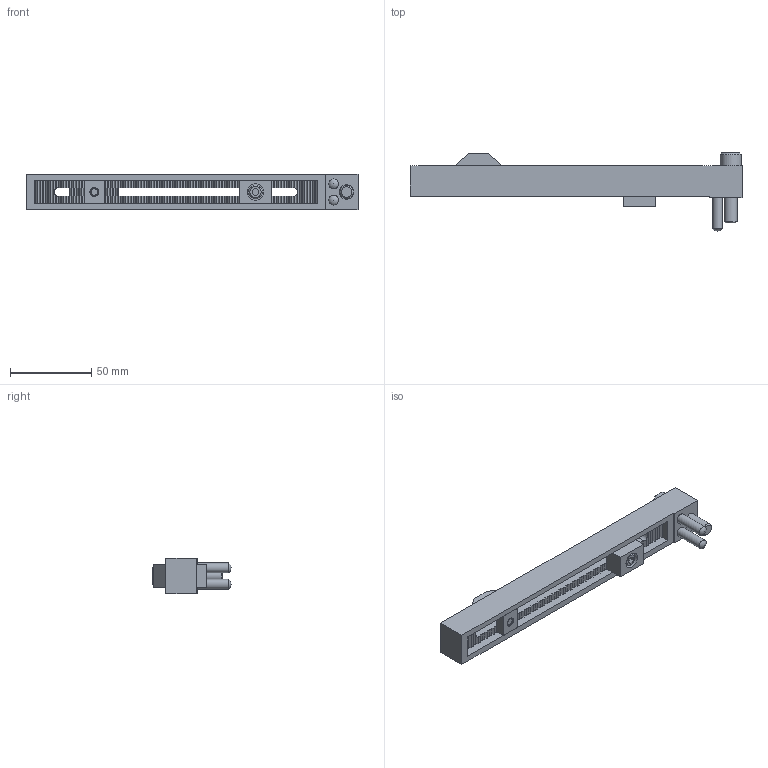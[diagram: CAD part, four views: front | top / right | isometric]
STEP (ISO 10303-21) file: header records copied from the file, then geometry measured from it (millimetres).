
FILE_DESCRIPTION(/* description */ ('STEP AP214'),/* implementation_level */ '2;1');
FILE_NAME(/* name */ 'KU11204',/* time_stamp */ '2024-12-19T07:56:51+01:00',/* author */ ('License CC BY-ND 4.0'),/* organization */ ('CADENAS'),/* preprocessor_version */ 'ST-DEVELOPER v19.3',/* originating_system */ 'PARTsolutions',/* authorisation */ ' ');
FILE_SCHEMA (('AUTOMOTIVE_DESIGN {1 0 10303 214 3 1 1}'));
Length unit declared in the file: millimetre
Products named in the file (10): KU11204; KU112041; KU112042; KU112043; KU112044; KU112045; KU112046; KU112047; KU112048; KU112049
Assembly tree (10 placements, depth 2):
  KU11204
    KU112041
    KU112042
    KU112043
    KU112044
    KU112045
    KU112046
    KU112047
    KU112048  x2
    KU112049
Bounding box: 204 x 48 x 22 mm (x, y, z)
Volume: 61952.2 mm3; surface area: 34268.8 mm2
Topology: 10 solids, 10 shells, 835 faces, 2427 edges, 1612 vertices
Faces by surface type: plane 806, cylinder 19, cone 6, sphere 4
Full cylindrical faces by diameter (mm): 5 x2, 5.5 x4, 6 x4, 8 x1, 8.5 x2, 9 x1, 10 x2, 13 x1
Entity records: 27073 total; most frequent: CARTESIAN_POINT 4835, ORIENTED_EDGE 4780, DIRECTION 4170, EDGE_CURVE 2390, LINE 2296, VECTOR 2296, VERTEX_POINT 1602, AXIS2_PLACEMENT_3D 937
